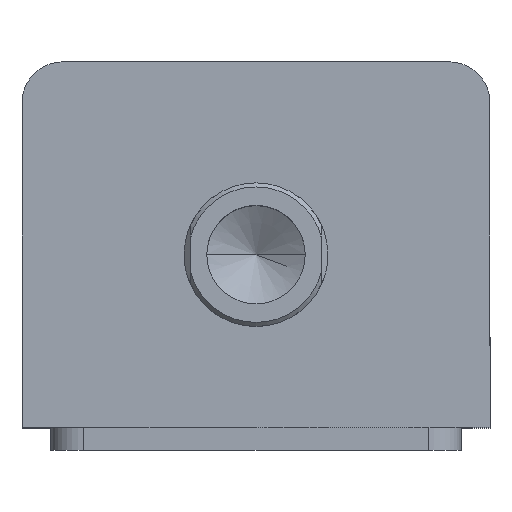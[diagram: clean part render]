
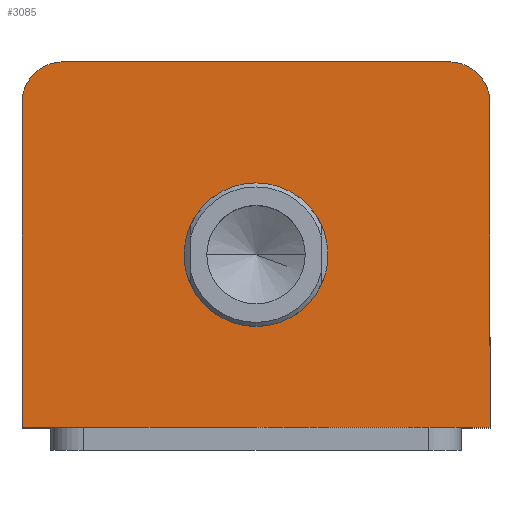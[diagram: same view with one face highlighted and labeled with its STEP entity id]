
A CAD part, top view. The second image highlights one B-rep face of the part: STEP entity #3085.
In plain terms, the highlighted planar face has unit normal (0, 0, 1).
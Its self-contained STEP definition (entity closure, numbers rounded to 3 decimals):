
#235 = VERTEX_POINT ( 'NONE', #249 ) ;
#249 = CARTESIAN_POINT ( 'NONE',  ( 57., 34.5, 182. ) ) ;
#292 = CARTESIAN_POINT ( 'NONE',  ( -57., 34.5, 182. ) ) ;
#397 = CIRCLE ( 'NONE', #1627, 17.5 ) ;
#400 = CIRCLE ( 'NONE', #1626, 17.5 ) ;
#406 = LINE ( 'NONE', #843, #413 ) ;
#413 = VECTOR ( 'NONE', #852, 1000. ) ;
#440 = LINE ( 'NONE', #881, #443 ) ;
#443 = VECTOR ( 'NONE', #882, 1000. ) ;
#468 = LINE ( 'NONE', #626, #471 ) ;
#471 = VECTOR ( 'NONE', #627, 1000. ) ;
#484 = CIRCLE ( 'NONE', #1610, 10. ) ;
#500 = CIRCLE ( 'NONE', #1601, 10. ) ;
#506 = LINE ( 'NONE', #704, #509 ) ;
#509 = VECTOR ( 'NONE', #705, 1000. ) ;
#556 = PLANE ( 'NONE',  #3317 ) ;
#563 = CARTESIAN_POINT ( 'NONE',  ( 0., 0., 182. ) ) ;
#564 = DIRECTION ( 'NONE',  ( 0., 0., 1. ) ) ;
#565 = DIRECTION ( 'NONE',  ( 1., 0., 0. ) ) ;
#626 = CARTESIAN_POINT ( 'NONE',  ( -57., 44.5, 182. ) ) ;
#627 = DIRECTION ( 'NONE',  ( -1., 0., 0. ) ) ;
#659 = CARTESIAN_POINT ( 'NONE',  ( 47., 34.5, 182. ) ) ;
#660 = DIRECTION ( 'NONE',  ( 0., 0., 1. ) ) ;
#661 = DIRECTION ( 'NONE',  ( 1., 0., 0. ) ) ;
#694 = CARTESIAN_POINT ( 'NONE',  ( -47., 34.5, 182. ) ) ;
#695 = DIRECTION ( 'NONE',  ( 0., 0., 1. ) ) ;
#696 = DIRECTION ( 'NONE',  ( 1., 0., 0. ) ) ;
#704 = CARTESIAN_POINT ( 'NONE',  ( -57., 44.5, 182. ) ) ;
#705 = DIRECTION ( 'NONE',  ( 0., -1., 0. ) ) ;
#829 = CARTESIAN_POINT ( 'NONE',  ( 0., -2.5, 182. ) ) ;
#830 = DIRECTION ( 'NONE',  ( 0., 0., 1. ) ) ;
#831 = DIRECTION ( 'NONE',  ( 1., 0., 0. ) ) ;
#832 = CARTESIAN_POINT ( 'NONE',  ( 0., -2.5, 182. ) ) ;
#833 = DIRECTION ( 'NONE',  ( 0., 0., 1. ) ) ;
#834 = DIRECTION ( 'NONE',  ( 1., 0., 0. ) ) ;
#843 = CARTESIAN_POINT ( 'NONE',  ( -57., -44.5, 182. ) ) ;
#852 = DIRECTION ( 'NONE',  ( 1., 0., 0. ) ) ;
#881 = CARTESIAN_POINT ( 'NONE',  ( 57., 44.5, 182. ) ) ;
#882 = DIRECTION ( 'NONE',  ( 0., 1., 0. ) ) ;
#1122 = FACE_BOUND ( 'NONE', #2974, .T. ) ;
#1132 = FACE_OUTER_BOUND ( 'NONE', #2983, .T. ) ;
#1318 = VERTEX_POINT ( 'NONE', #292 ) ;
#1344 = VERTEX_POINT ( 'NONE', #1409 ) ;
#1409 = CARTESIAN_POINT ( 'NONE',  ( -47., 44.5, 182. ) ) ;
#1434 = CARTESIAN_POINT ( 'NONE',  ( 57., -44.5, 182. ) ) ;
#1437 = CARTESIAN_POINT ( 'NONE',  ( -57., -44.5, 182. ) ) ;
#1440 = CARTESIAN_POINT ( 'NONE',  ( 17.5, -2.5, 182. ) ) ;
#1441 = CARTESIAN_POINT ( 'NONE',  ( -17.5, -2.5, 182. ) ) ;
#1465 = CARTESIAN_POINT ( 'NONE',  ( 47., 44.5, 182. ) ) ;
#1601 = AXIS2_PLACEMENT_3D ( 'NONE', #694, #695, #696 ) ;
#1610 = AXIS2_PLACEMENT_3D ( 'NONE', #659, #660, #661 ) ;
#1626 = AXIS2_PLACEMENT_3D ( 'NONE', #832, #833, #834 ) ;
#1627 = AXIS2_PLACEMENT_3D ( 'NONE', #829, #830, #831 ) ;
#2453 = VERTEX_POINT ( 'NONE', #1434 ) ;
#2457 = VERTEX_POINT ( 'NONE', #1440 ) ;
#2458 = VERTEX_POINT ( 'NONE', #1437 ) ;
#2459 = VERTEX_POINT ( 'NONE', #1441 ) ;
#2634 = ORIENTED_EDGE ( 'NONE', *, *, #3504, .F. ) ;
#2635 = ORIENTED_EDGE ( 'NONE', *, *, #3502, .F. ) ;
#2636 = ORIENTED_EDGE ( 'NONE', *, *, #3542, .T. ) ;
#2637 = ORIENTED_EDGE ( 'NONE', *, *, #3567, .T. ) ;
#2638 = ORIENTED_EDGE ( 'NONE', *, *, #3571, .T. ) ;
#2639 = ORIENTED_EDGE ( 'NONE', *, *, #3511, .T. ) ;
#2640 = ORIENTED_EDGE ( 'NONE', *, *, #3526, .T. ) ;
#2641 = ORIENTED_EDGE ( 'NONE', *, *, #3555, .T. ) ;
#2973 = VERTEX_POINT ( 'NONE', #1465 ) ;
#2974 = EDGE_LOOP ( 'NONE', ( #2634, #2635 ) ) ;
#2983 = EDGE_LOOP ( 'NONE', ( #2636, #2637, #2638, #2639, #2640, #2641 ) ) ;
#3085 = ADVANCED_FACE ( 'NONE', ( #1122, #1132 ), #556, .T. ) ;
#3317 = AXIS2_PLACEMENT_3D ( 'NONE', #563, #564, #565 ) ;
#3502 = EDGE_CURVE ( 'NONE', #2459, #2457, #397, .T. ) ;
#3504 = EDGE_CURVE ( 'NONE', #2457, #2459, #400, .T. ) ;
#3511 = EDGE_CURVE ( 'NONE', #2458, #2453, #406, .T. ) ;
#3526 = EDGE_CURVE ( 'NONE', #2453, #235, #440, .T. ) ;
#3542 = EDGE_CURVE ( 'NONE', #2973, #1344, #468, .T. ) ;
#3555 = EDGE_CURVE ( 'NONE', #235, #2973, #484, .T. ) ;
#3567 = EDGE_CURVE ( 'NONE', #1344, #1318, #500, .T. ) ;
#3571 = EDGE_CURVE ( 'NONE', #1318, #2458, #506, .T. ) ;
